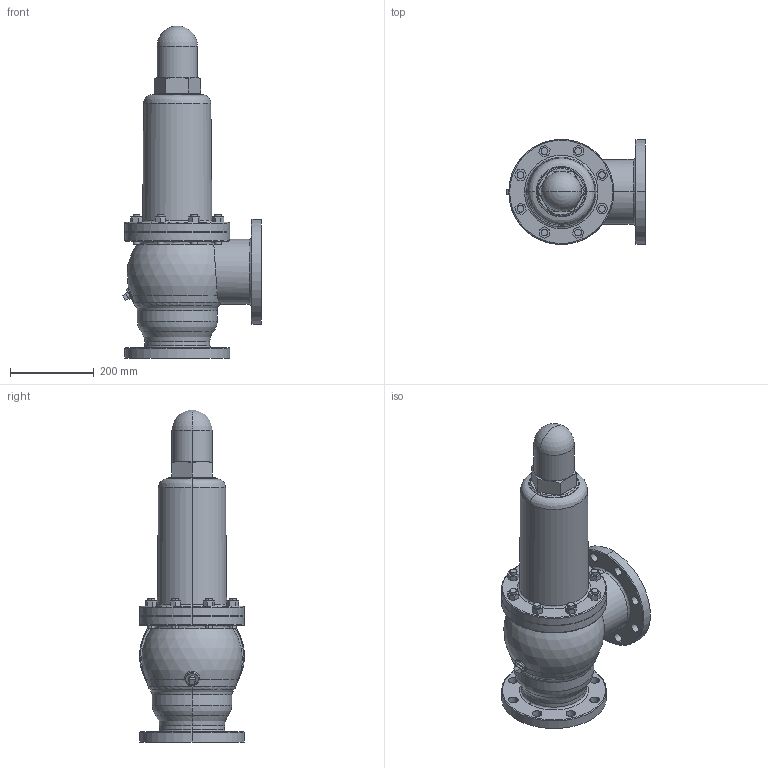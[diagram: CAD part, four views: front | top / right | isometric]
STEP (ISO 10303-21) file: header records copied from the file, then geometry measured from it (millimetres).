
FILE_DESCRIPTION( (''), '2;1');
FILE_NAME ('PC1027.9568.AL-4 125A((JIS 10K)_1815.stp','2025-07-28T13:07:58',(''),(''),'spGate 19.8.4 (****-****-****-****)','','');
FILE_SCHEMA (('AUTOMOTIVE_DESIGN'));
Length unit declared in the file: millimetre
Products named in the file (3): Assembly; 3D 125A; プラグ
Assembly tree (2 placements, depth 2):
  Assembly
    3D 125A
    プラグ
Bounding box: 329.89 x 250 x 791 mm (x, y, z)
Volume: 21106314 mm3; surface area: 761061.8 mm2
Topology: 2 solids, 2 shells, 263 faces, 660 edges, 423 vertices
Faces by surface type: cylinder 113, plane 110, bspline 37, sphere 3
Entity records: 14892 total; most frequent: CARTESIAN_POINT 3464, ORIENTED_EDGE 1316, DIRECTION 1220, COLOUR_RGB 923, PRESENTATION_STYLE_ASSIGNMENT 923, STYLED_ITEM 923, EDGE_CURVE 658, DRAUGHTING_PRE_DEFINED_CURVE_FONT 658
